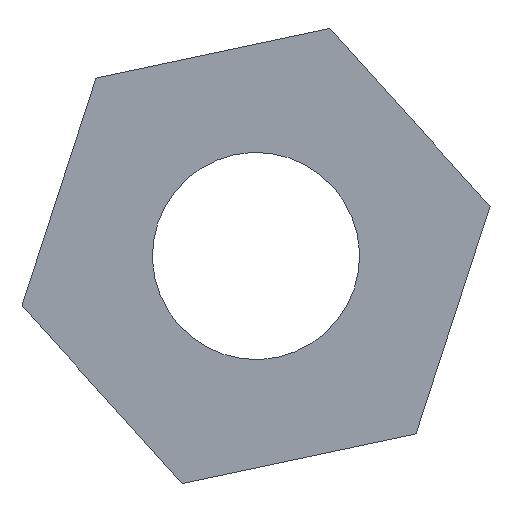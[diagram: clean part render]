
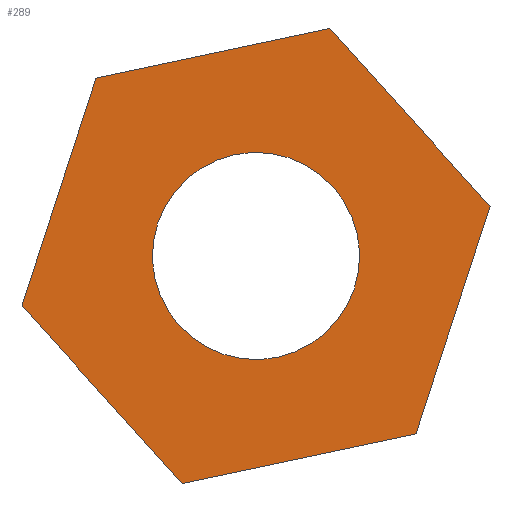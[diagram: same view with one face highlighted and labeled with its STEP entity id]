
A CAD part, left-side view. The second image highlights one B-rep face of the part: STEP entity #289.
In plain terms, the highlighted planar face has unit normal (-1, 0, 0).
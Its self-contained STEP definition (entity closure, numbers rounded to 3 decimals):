
#22 = VERTEX_POINT('',#23);
#23 = CARTESIAN_POINT('',(11.65,30.395,14.805));
#32 = PLANE('',#33);
#33 = AXIS2_PLACEMENT_3D('',#34,#35,#36);
#34 = CARTESIAN_POINT('',(11.65,30.395,14.805));
#35 = DIRECTION('',(0.,-0.208,-0.978)
  );
#36 = DIRECTION('',(0.,-0.978,0.208)
  );
#44 = PLANE('',#45);
#45 = AXIS2_PLACEMENT_3D('',#46,#47,#48);
#46 = CARTESIAN_POINT('',(11.65,28.85,13.089));
#47 = DIRECTION('',(0.,0.743,-0.669));
#48 = DIRECTION('',(0.,-0.669,-0.743)
  );
#85 = VERTEX_POINT('',#86);
#86 = CARTESIAN_POINT('',(11.65,32.654,14.325));
#100 = PLANE('',#101);
#101 = AXIS2_PLACEMENT_3D('',#102,#103,#104);
#102 = CARTESIAN_POINT('',(11.65,32.654,14.325));
#103 = DIRECTION('',(0.,-0.951,-0.309)
  );
#104 = DIRECTION('',(0.,-0.309,0.951)
  );
#112 = EDGE_CURVE('',#22,#85,#113,.T.);
#113 = SURFACE_CURVE('',#114,(#118,#125),.PCURVE_S1.);
#114 = LINE('',#115,#116);
#115 = CARTESIAN_POINT('',(11.65,30.395,14.805));
#116 = VECTOR('',#117,1.);
#117 = DIRECTION('',(0.,0.978,-0.208)
  );
#118 = PCURVE('',#32,#119);
#119 = DEFINITIONAL_REPRESENTATION('',(#120),#124);
#120 = LINE('',#121,#122);
#121 = CARTESIAN_POINT('',(-0.,0.));
#122 = VECTOR('',#123,1.);
#123 = DIRECTION('',(-1.,0.));
#124 = ( GEOMETRIC_REPRESENTATION_CONTEXT(2) 
PARAMETRIC_REPRESENTATION_CONTEXT() REPRESENTATION_CONTEXT('2D SPACE',''
  ) );
#125 = PCURVE('',#126,#131);
#126 = PLANE('',#127);
#127 = AXIS2_PLACEMENT_3D('',#128,#129,#130);
#128 = CARTESIAN_POINT('',(11.65,31.109,12.609));
#129 = DIRECTION('',(1.,0.,0.));
#130 = DIRECTION('',(0.,0.309,-0.951)
  );
#131 = DEFINITIONAL_REPRESENTATION('',(#132),#136);
#132 = LINE('',#133,#134);
#133 = CARTESIAN_POINT('',(-2.309,0.));
#134 = VECTOR('',#135,1.);
#135 = DIRECTION('',(0.5,0.866));
#136 = ( GEOMETRIC_REPRESENTATION_CONTEXT(2) 
PARAMETRIC_REPRESENTATION_CONTEXT() REPRESENTATION_CONTEXT('2D SPACE',''
  ) );
#142 = VERTEX_POINT('',#143);
#143 = CARTESIAN_POINT('',(11.65,28.85,13.089));
#159 = PLANE('',#160);
#160 = AXIS2_PLACEMENT_3D('',#161,#162,#163);
#161 = CARTESIAN_POINT('',(11.65,29.563,10.892));
#162 = DIRECTION('',(0.,0.951,0.309)
  );
#163 = DIRECTION('',(0.,0.309,-0.951)
  );
#193 = EDGE_CURVE('',#142,#22,#194,.T.);
#194 = SURFACE_CURVE('',#195,(#199,#206),.PCURVE_S1.);
#195 = LINE('',#196,#197);
#196 = CARTESIAN_POINT('',(11.65,28.85,13.089));
#197 = VECTOR('',#198,1.);
#198 = DIRECTION('',(0.,0.669,0.743)
  );
#199 = PCURVE('',#44,#200);
#200 = DEFINITIONAL_REPRESENTATION('',(#201),#205);
#201 = LINE('',#202,#203);
#202 = CARTESIAN_POINT('',(-0.,0.));
#203 = VECTOR('',#204,1.);
#204 = DIRECTION('',(-1.,0.));
#205 = ( GEOMETRIC_REPRESENTATION_CONTEXT(2) 
PARAMETRIC_REPRESENTATION_CONTEXT() REPRESENTATION_CONTEXT('2D SPACE',''
  ) );
#206 = PCURVE('',#126,#207);
#207 = DEFINITIONAL_REPRESENTATION('',(#208),#212);
#208 = LINE('',#209,#210);
#209 = CARTESIAN_POINT('',(-1.155,-2.));
#210 = VECTOR('',#211,1.);
#211 = DIRECTION('',(-0.5,0.866));
#212 = ( GEOMETRIC_REPRESENTATION_CONTEXT(2) 
PARAMETRIC_REPRESENTATION_CONTEXT() REPRESENTATION_CONTEXT('2D SPACE',''
  ) );
#242 = VERTEX_POINT('',#243);
#243 = CARTESIAN_POINT('',(11.65,33.368,12.128));
#257 = PLANE('',#258);
#258 = AXIS2_PLACEMENT_3D('',#259,#260,#261);
#259 = CARTESIAN_POINT('',(11.65,33.368,12.128));
#260 = DIRECTION('',(0.,-0.743,0.669)
  );
#261 = DIRECTION('',(0.,0.669,0.743)
  );
#269 = EDGE_CURVE('',#85,#242,#270,.T.);
#270 = SURFACE_CURVE('',#271,(#275,#282),.PCURVE_S1.);
#271 = LINE('',#272,#273);
#272 = CARTESIAN_POINT('',(11.65,32.654,14.325));
#273 = VECTOR('',#274,1.);
#274 = DIRECTION('',(0.,0.309,-0.951)
  );
#275 = PCURVE('',#100,#276);
#276 = DEFINITIONAL_REPRESENTATION('',(#277),#281);
#277 = LINE('',#278,#279);
#278 = CARTESIAN_POINT('',(-0.,0.));
#279 = VECTOR('',#280,1.);
#280 = DIRECTION('',(-1.,0.));
#281 = ( GEOMETRIC_REPRESENTATION_CONTEXT(2) 
PARAMETRIC_REPRESENTATION_CONTEXT() REPRESENTATION_CONTEXT('2D SPACE',''
  ) );
#282 = PCURVE('',#126,#283);
#283 = DEFINITIONAL_REPRESENTATION('',(#284),#288);
#284 = LINE('',#285,#286);
#285 = CARTESIAN_POINT('',(-1.155,2.));
#286 = VECTOR('',#287,1.);
#287 = DIRECTION('',(1.,0.));
#288 = ( GEOMETRIC_REPRESENTATION_CONTEXT(2) 
PARAMETRIC_REPRESENTATION_CONTEXT() REPRESENTATION_CONTEXT('2D SPACE',''
  ) );
#289 = ADVANCED_FACE('',(#290,#367),#126,.F.);
#290 = FACE_BOUND('',#291,.T.);
#291 = EDGE_LOOP('',(#292,#293,#294,#317,#345,#366));
#292 = ORIENTED_EDGE('',*,*,#112,.T.);
#293 = ORIENTED_EDGE('',*,*,#269,.T.);
#294 = ORIENTED_EDGE('',*,*,#295,.T.);
#295 = EDGE_CURVE('',#242,#296,#298,.T.);
#296 = VERTEX_POINT('',#297);
#297 = CARTESIAN_POINT('',(11.65,31.822,10.412));
#298 = SURFACE_CURVE('',#299,(#303,#310),.PCURVE_S1.);
#299 = LINE('',#300,#301);
#300 = CARTESIAN_POINT('',(11.65,33.368,12.128));
#301 = VECTOR('',#302,1.);
#302 = DIRECTION('',(0.,-0.669,-0.743)
  );
#303 = PCURVE('',#126,#304);
#304 = DEFINITIONAL_REPRESENTATION('',(#305),#309);
#305 = LINE('',#306,#307);
#306 = CARTESIAN_POINT('',(1.155,2.));
#307 = VECTOR('',#308,1.);
#308 = DIRECTION('',(0.5,-0.866));
#309 = ( GEOMETRIC_REPRESENTATION_CONTEXT(2) 
PARAMETRIC_REPRESENTATION_CONTEXT() REPRESENTATION_CONTEXT('2D SPACE',''
  ) );
#310 = PCURVE('',#257,#311);
#311 = DEFINITIONAL_REPRESENTATION('',(#312),#316);
#312 = LINE('',#313,#314);
#313 = CARTESIAN_POINT('',(-0.,0.));
#314 = VECTOR('',#315,1.);
#315 = DIRECTION('',(-1.,0.));
#316 = ( GEOMETRIC_REPRESENTATION_CONTEXT(2) 
PARAMETRIC_REPRESENTATION_CONTEXT() REPRESENTATION_CONTEXT('2D SPACE',''
  ) );
#317 = ORIENTED_EDGE('',*,*,#318,.T.);
#318 = EDGE_CURVE('',#296,#319,#321,.T.);
#319 = VERTEX_POINT('',#320);
#320 = CARTESIAN_POINT('',(11.65,29.563,10.892));
#321 = SURFACE_CURVE('',#322,(#326,#333),.PCURVE_S1.);
#322 = LINE('',#323,#324);
#323 = CARTESIAN_POINT('',(11.65,31.822,10.412));
#324 = VECTOR('',#325,1.);
#325 = DIRECTION('',(0.,-0.978,0.208)
  );
#326 = PCURVE('',#126,#327);
#327 = DEFINITIONAL_REPRESENTATION('',(#328),#332);
#328 = LINE('',#329,#330);
#329 = CARTESIAN_POINT('',(2.309,0.));
#330 = VECTOR('',#331,1.);
#331 = DIRECTION('',(-0.5,-0.866));
#332 = ( GEOMETRIC_REPRESENTATION_CONTEXT(2) 
PARAMETRIC_REPRESENTATION_CONTEXT() REPRESENTATION_CONTEXT('2D SPACE',''
  ) );
#333 = PCURVE('',#334,#339);
#334 = PLANE('',#335);
#335 = AXIS2_PLACEMENT_3D('',#336,#337,#338);
#336 = CARTESIAN_POINT('',(11.65,31.822,10.412));
#337 = DIRECTION('',(0.,0.208,0.978)
  );
#338 = DIRECTION('',(0.,0.978,-0.208)
  );
#339 = DEFINITIONAL_REPRESENTATION('',(#340),#344);
#340 = LINE('',#341,#342);
#341 = CARTESIAN_POINT('',(-0.,0.));
#342 = VECTOR('',#343,1.);
#343 = DIRECTION('',(-1.,0.));
#344 = ( GEOMETRIC_REPRESENTATION_CONTEXT(2) 
PARAMETRIC_REPRESENTATION_CONTEXT() REPRESENTATION_CONTEXT('2D SPACE',''
  ) );
#345 = ORIENTED_EDGE('',*,*,#346,.T.);
#346 = EDGE_CURVE('',#319,#142,#347,.T.);
#347 = SURFACE_CURVE('',#348,(#352,#359),.PCURVE_S1.);
#348 = LINE('',#349,#350);
#349 = CARTESIAN_POINT('',(11.65,29.563,10.892));
#350 = VECTOR('',#351,1.);
#351 = DIRECTION('',(0.,-0.309,0.951)
  );
#352 = PCURVE('',#126,#353);
#353 = DEFINITIONAL_REPRESENTATION('',(#354),#358);
#354 = LINE('',#355,#356);
#355 = CARTESIAN_POINT('',(1.155,-2.));
#356 = VECTOR('',#357,1.);
#357 = DIRECTION('',(-1.,0.));
#358 = ( GEOMETRIC_REPRESENTATION_CONTEXT(2) 
PARAMETRIC_REPRESENTATION_CONTEXT() REPRESENTATION_CONTEXT('2D SPACE',''
  ) );
#359 = PCURVE('',#159,#360);
#360 = DEFINITIONAL_REPRESENTATION('',(#361),#365);
#361 = LINE('',#362,#363);
#362 = CARTESIAN_POINT('',(-0.,0.));
#363 = VECTOR('',#364,1.);
#364 = DIRECTION('',(-1.,0.));
#365 = ( GEOMETRIC_REPRESENTATION_CONTEXT(2) 
PARAMETRIC_REPRESENTATION_CONTEXT() REPRESENTATION_CONTEXT('2D SPACE',''
  ) );
#366 = ORIENTED_EDGE('',*,*,#193,.T.);
#367 = FACE_BOUND('',#368,.T.);
#368 = EDGE_LOOP('',(#369));
#369 = ORIENTED_EDGE('',*,*,#370,.F.);
#370 = EDGE_CURVE('',#371,#371,#373,.T.);
#371 = VERTEX_POINT('',#372);
#372 = CARTESIAN_POINT('',(11.65,30.8,13.56));
#373 = SURFACE_CURVE('',#374,(#379,#390),.PCURVE_S1.);
#374 = CIRCLE('',#375,1.);
#375 = AXIS2_PLACEMENT_3D('',#376,#377,#378);
#376 = CARTESIAN_POINT('',(11.65,31.109,12.609));
#377 = DIRECTION('',(-1.,0.,0.));
#378 = DIRECTION('',(0.,-0.309,0.951)
  );
#379 = PCURVE('',#126,#380);
#380 = DEFINITIONAL_REPRESENTATION('',(#381),#389);
#381 = ( BOUNDED_CURVE() B_SPLINE_CURVE(2,(#382,#383,#384,#385,#386,#387
,#388),.UNSPECIFIED.,.T.,.F.) B_SPLINE_CURVE_WITH_KNOTS((1,2,2,2,2,1),(
    -2.094,0.,2.094,4.189,6.283,
8.378),.UNSPECIFIED.) CURVE() GEOMETRIC_REPRESENTATION_ITEM() 
RATIONAL_B_SPLINE_CURVE((1.,0.5,1.,0.5,1.,0.5,1.)) REPRESENTATION_ITEM(
  '') );
#382 = CARTESIAN_POINT('',(-1.,0.));
#383 = CARTESIAN_POINT('',(-1.,1.732));
#384 = CARTESIAN_POINT('',(0.5,0.866));
#385 = CARTESIAN_POINT('',(2.,0.));
#386 = CARTESIAN_POINT('',(0.5,-0.866));
#387 = CARTESIAN_POINT('',(-1.,-1.732));
#388 = CARTESIAN_POINT('',(-1.,0.));
#389 = ( GEOMETRIC_REPRESENTATION_CONTEXT(2) 
PARAMETRIC_REPRESENTATION_CONTEXT() REPRESENTATION_CONTEXT('2D SPACE',''
  ) );
#390 = PCURVE('',#391,#396);
#391 = CYLINDRICAL_SURFACE('',#392,1.);
#392 = AXIS2_PLACEMENT_3D('',#393,#394,#395);
#393 = CARTESIAN_POINT('',(11.45,31.109,12.609));
#394 = DIRECTION('',(1.,0.,0.));
#395 = DIRECTION('',(0.,-0.309,0.951)
  );
#396 = DEFINITIONAL_REPRESENTATION('',(#397),#401);
#397 = LINE('',#398,#399);
#398 = CARTESIAN_POINT('',(-0.,0.2));
#399 = VECTOR('',#400,1.);
#400 = DIRECTION('',(-1.,0.));
#401 = ( GEOMETRIC_REPRESENTATION_CONTEXT(2) 
PARAMETRIC_REPRESENTATION_CONTEXT() REPRESENTATION_CONTEXT('2D SPACE',''
  ) );
